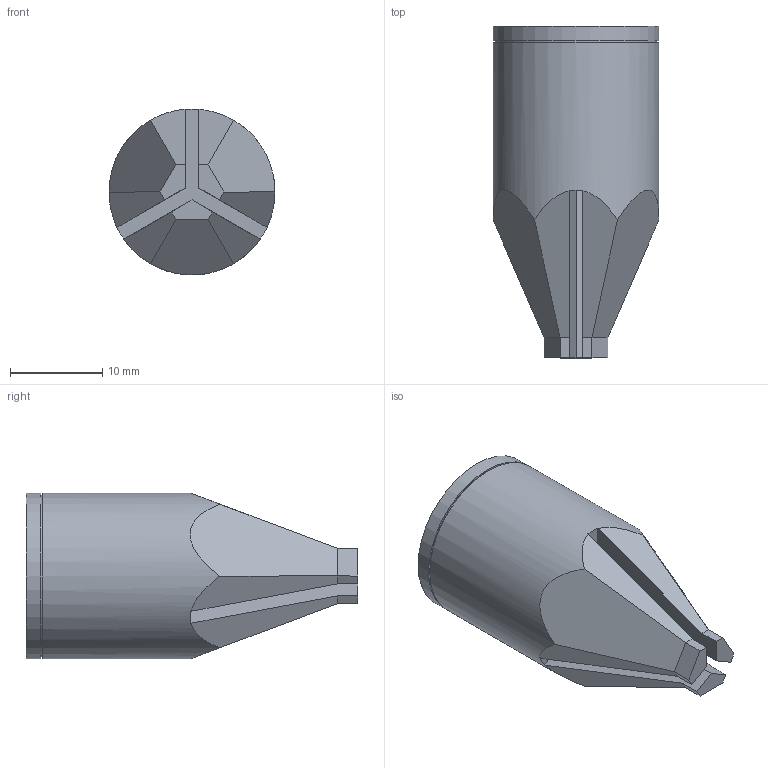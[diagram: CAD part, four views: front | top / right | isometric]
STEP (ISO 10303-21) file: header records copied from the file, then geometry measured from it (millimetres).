
FILE_DESCRIPTION( ( 'STEP AP214' ), '1' );
FILE_NAME( 'D:/Backup/桌面/B-3B.stp', '2024-10-10T06:07:10', ( 'License CC BY-ND 4.0' ), ( 'CADENAS' ), ' ', 'PARTsolutions', ' ' );
FILE_SCHEMA( ( 'AUTOMOTIVE_DESIGN { 1 0 10303 214 1 1 1 1 }' ) );
Length unit declared in the file: millimetre
Products named in the file (1): _B-3B18[P]/S
Bounding box: 18 x 36 x 18 mm (x, y, z)
Volume: 6220.9 mm3; surface area: 2630.6 mm2
Topology: 1 solids, 1 shells, 36 faces, 87 edges, 56 vertices
Faces by surface type: plane 32, cylinder 4
Full cylindrical faces by diameter (mm): 4.134 x1, 17.6 x1, 18 x2
Entity records: 1317 total; most frequent: DIRECTION 175, CARTESIAN_POINT 174, ORIENTED_EDGE 164, EDGE_CURVE 82, LINE 63, VECTOR 63, AXIS2_PLACEMENT_3D 56, VERTEX_POINT 55
